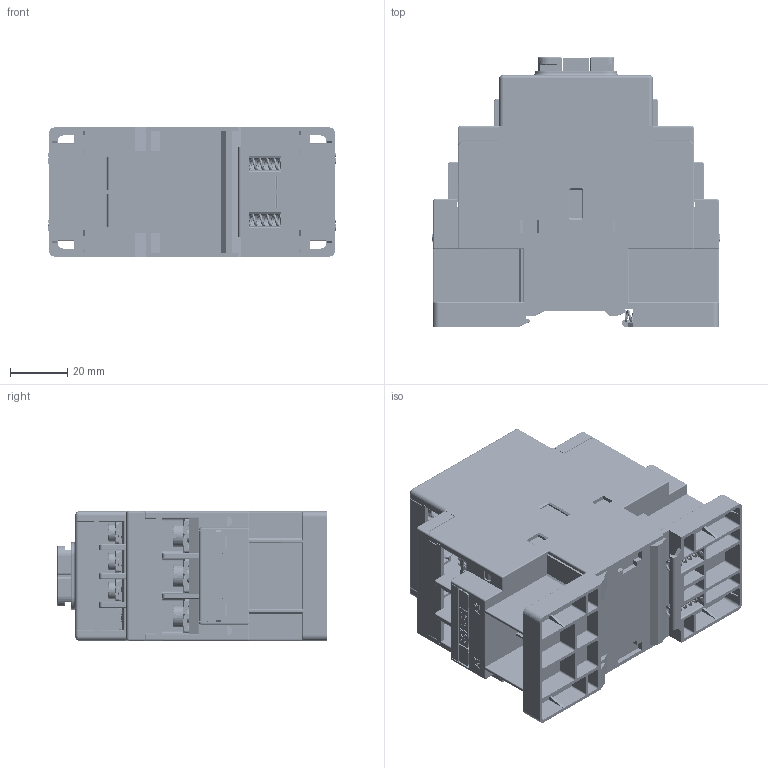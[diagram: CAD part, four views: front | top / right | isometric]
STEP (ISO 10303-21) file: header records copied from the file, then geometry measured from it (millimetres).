
FILE_DESCRIPTION(/* description */ (''),/* implementation_level */ '2;1');
FILE_NAME(/* name */ 'HGC40AF.stp',/* time_stamp */ '2017-09-21T10:47:52+09:00',/* author */ (''),/* organization */ (''),/* preprocessor_version */ 'ST-DEVELOPER v15',/* originating_system */ 'SIEMENS PLM Software NX 9.0',/* authorisation */ '');
FILE_SCHEMA (('CONFIG_CONTROL_DESIGN'));
Products named in the file (1): HGC40AF2
Bounding box: 100.2 x 93.8 x 45 mm (x, y, z)
Volume: 242839.7 mm3; surface area: 135130.5 mm2
Topology: 73 solids, 75 shells, 13975 faces, 38800 edges, 25212 vertices
Faces by surface type: plane 9751, cylinder 2484, extrusion 755, torus 596, sphere 163, cone 154, bspline 72
Entity records: 458476 total; most frequent: CARTESIAN_POINT 99547, ORIENTED_EDGE 77600, DIRECTION 69943, EDGE_CURVE 38800, VECTOR 31731, LINE 30976, VERTEX_POINT 25212, AXIS2_PLACEMENT_3D 19106
